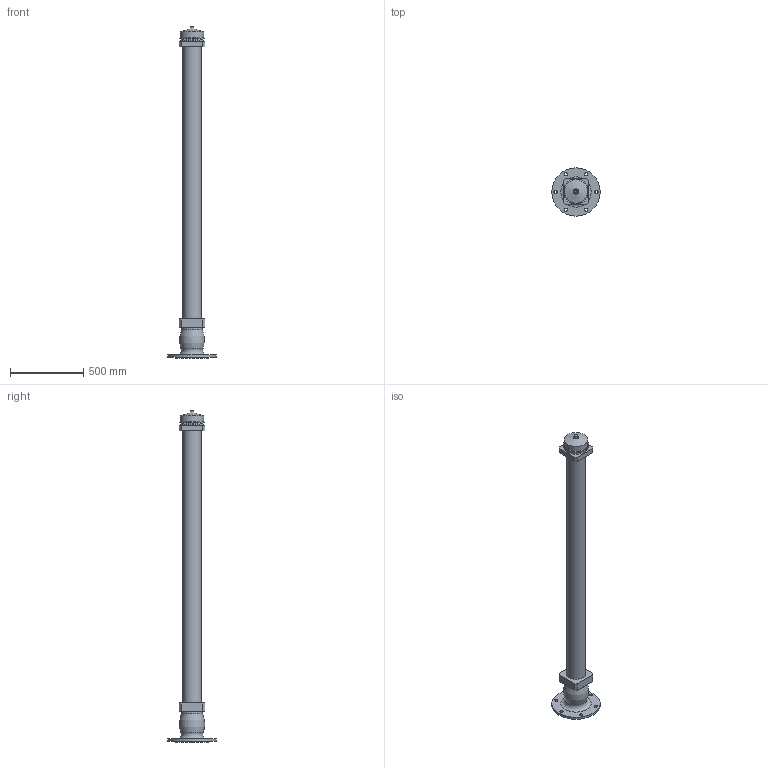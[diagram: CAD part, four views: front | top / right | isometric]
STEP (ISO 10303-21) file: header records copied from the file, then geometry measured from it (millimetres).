
FILE_DESCRIPTION(('STEP AP203'), '1');
FILE_NAME('Ãèäðàíò GPP 2250 ïîæàðíûé ïîäçåìíûé', '', ('UNSPECIFIED'), ('UNSPECIFIED'), 'ASCON STEP Converter 1.6', 'ASCON Math Kernel', '');
FILE_SCHEMA(('CONFIG_CONTROL_DESIGN'));
Length unit declared in the file: millimetre
Bounding box: 330 x 330 x 2272 mm (x, y, z)
Volume: 34076111.7 mm3; surface area: 1212164.2 mm2
Topology: 1 solids, 1 shells, 47 faces, 104 edges, 67 vertices
Faces by surface type: plane 26, cylinder 12, cone 7, torus 2
Full cylindrical faces by diameter (mm): 20 x1, 22 x6, 129 x1, 142 x1, 143 x1, 157.302 x1, 160 x1
Entity records: 1617 total; most frequent: DIRECTION 212, CARTESIAN_POINT 196, ORIENTED_EDGE 164, EDGE_LOOP 88, AXIS2_PLACEMENT_3D 82, EDGE_CURVE 82, VERTEX_POINT 66, COLOUR_RGB 48
